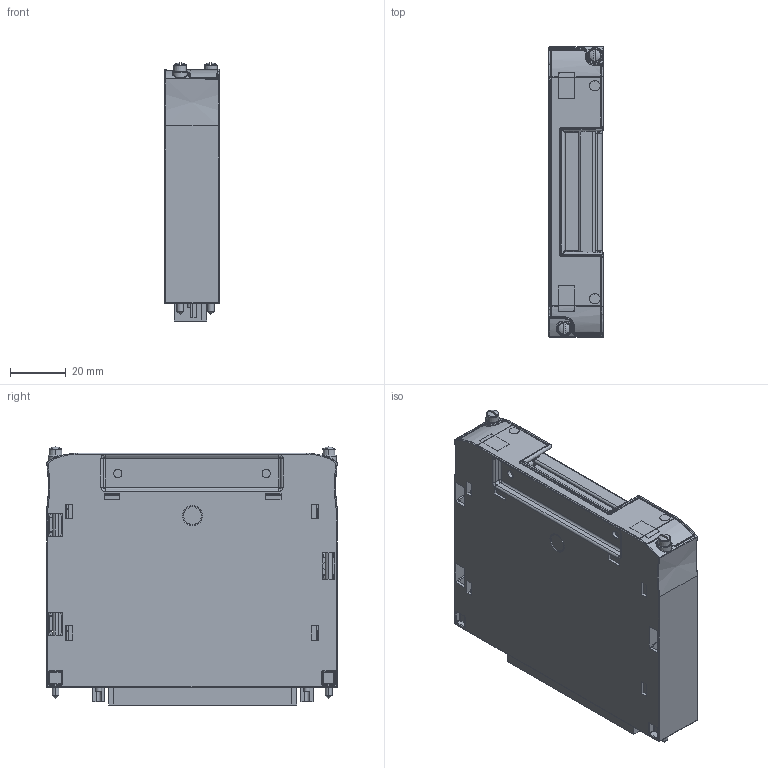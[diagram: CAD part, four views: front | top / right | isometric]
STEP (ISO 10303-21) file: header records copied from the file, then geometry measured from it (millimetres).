
FILE_DESCRIPTION((''),'2;1');
FILE_NAME('CU_TB-2635','2011-08-10T',('jjorden'),(''),'PRO/ENGINEER BY PARAMETRIC TECHNOLOGY CORPORATION, 2010230','PRO/ENGINEER BY PARAMETRIC TECHNOLOGY CORPORATION, 2010230','');
FILE_SCHEMA(('CONFIG_CONTROL_DESIGN'));
Products named in the file (1): CU_TB-2635
Bounding box: 19.53 x 104.54 x 92.77 mm (x, y, z)
Volume: 74413.1 mm3; surface area: 82744.7 mm2
Topology: 1 solids, 3 shells, 3173 faces, 7801 edges, 4801 vertices
Faces by surface type: plane 1884, cylinder 708, bspline 269, torus 124, sphere 122, cone 66
Entity records: 113070 total; most frequent: CARTESIAN_POINT 39494, ORIENTED_EDGE 15488, DIRECTION 14453, EDGE_CURVE 7744, VECTOR 5299, LINE 5299, VERTEX_POINT 4896, AXIS2_PLACEMENT_3D 4577
